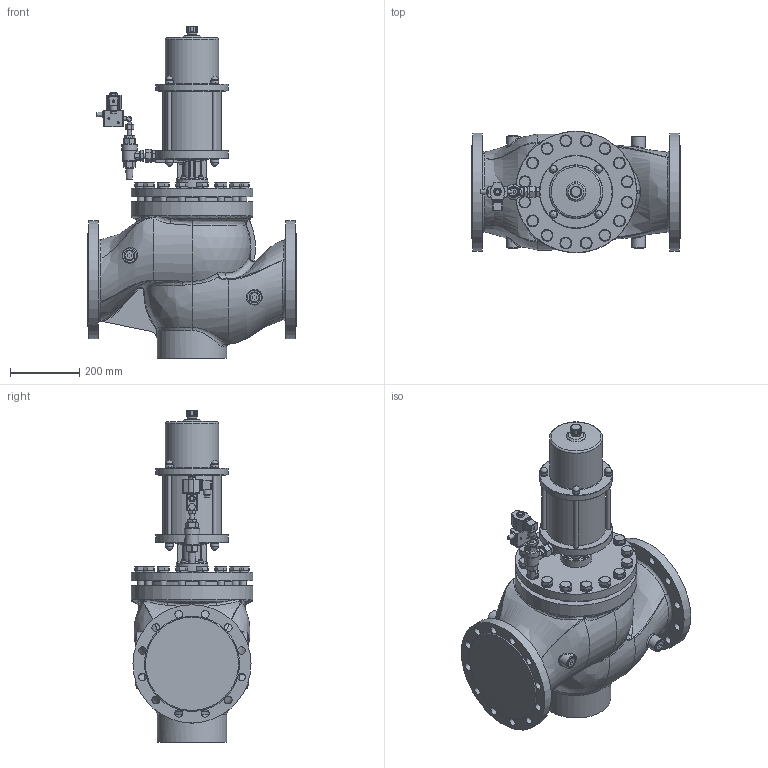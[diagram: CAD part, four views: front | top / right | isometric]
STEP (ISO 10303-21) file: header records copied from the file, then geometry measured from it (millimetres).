
FILE_DESCRIPTION((''),'2;1');
FILE_NAME('G:\CAD-Download\EPVA\10-4-EPVA\DN 200\10-4-EPVA 200H-4.00.32.stp','2010-04-20T07:59:49',('hb'),(''),'Autodesk Inventor 2008','Autodesk Inventor 2008','');
FILE_SCHEMA(('AUTOMOTIVE_DESIGN { 1 0 10303 214 1 1 1 1 }'));
Length unit declared in the file: millimetre
Products named in the file (1): Bauteil4
Bounding box: 600 x 350 x 955.55 mm (x, y, z)
Volume: 60348050.5 mm3; surface area: 1737846.1 mm2
Topology: 1 solids, 3 shells, 1571 faces, 4023 edges, 2501 vertices
Faces by surface type: plane 689, cylinder 331, bspline 298, cone 199, sphere 27, torus 27
Full cylindrical faces by diameter (mm): 5.5 x1, 6.4 x1, 6.9 x1, 8 x4, 10.957 x1, 10.997 x1, 12 x9, 13 x8, 14 x1, 18 x1, 20 x32, 20.15 x2, 21.2 x8, 21.5 x1, 22 x12, 23 x9, 24.376 x1, 26 x5, 26.6 x1, 27 x3, 28.19 x16, 31 x2, 32.2 x1, 40 x3, 44 x1, 50 x1, 90 x1, 153 x1, 170 x1, 200 x1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
Entity records: 76294 total; most frequent: CARTESIAN_POINT 40581, ORIENTED_EDGE 7156, DIRECTION 6615, EDGE_CURVE 3578, AXIS2_PLACEMENT_3D 2706, VERTEX_POINT 2350, EDGE_LOOP 2079, FACE_OUTER_BOUND 1571
